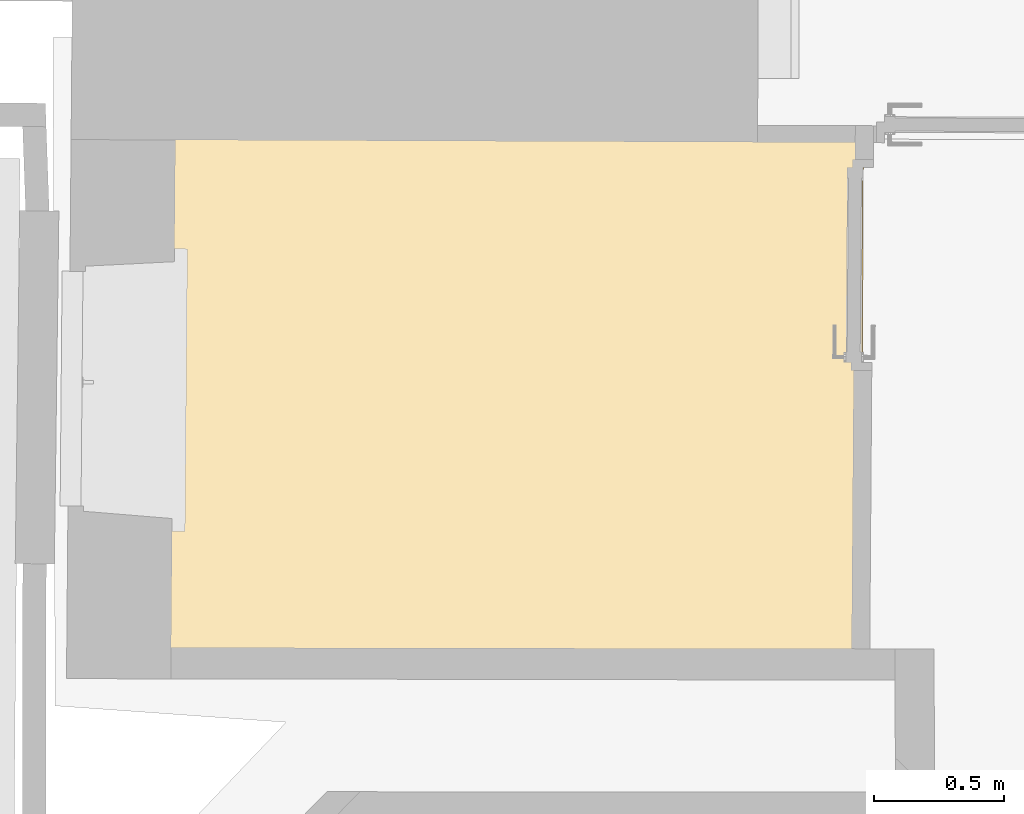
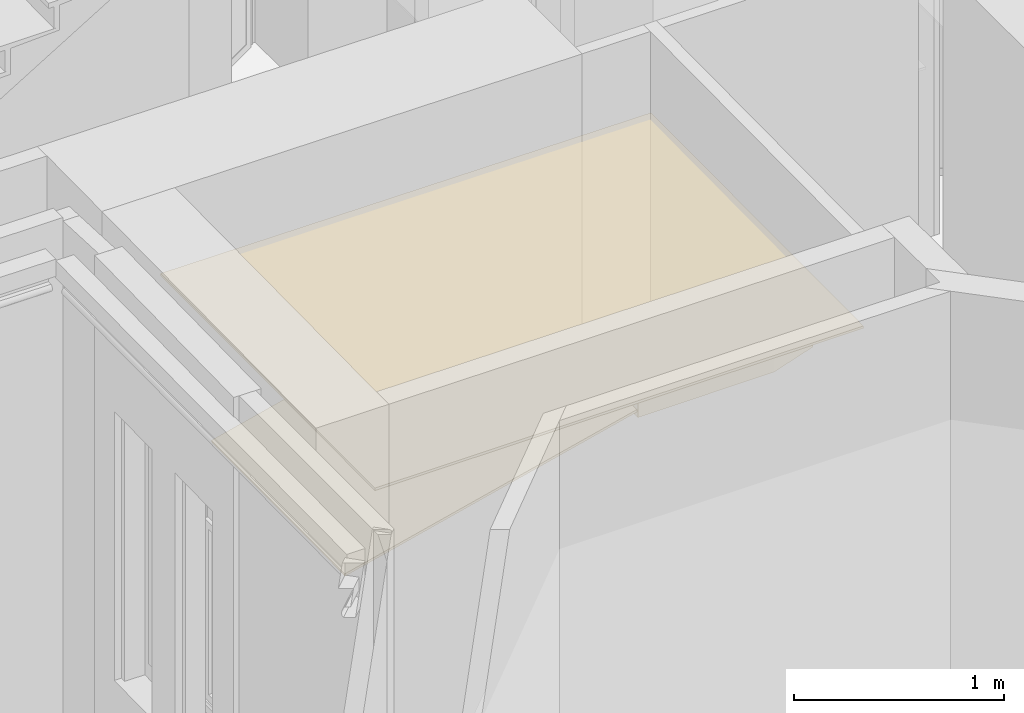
# One storey, part 55 of 66: 1 covering.
"""IFC2X3 building model written with IfcOpenShell, lengths in centimetres."""

from ifc_helpers import new_model, entity, si_unit, converted_unit, direction, frame, origin, origin_with_axes, place, context, subcontext, project, spatial, faceted_brep, material, element, save


model = new_model("IFC2X3")

# Units and contexts
model_context = context("Model", 3, precision=0.0001, world=origin(), true_north=direction((0.225632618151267, 0.974212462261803, 0.0)))
body_context = subcontext(model_context, "Body", "Model", "MODEL_VIEW")
ifc_project = project(units=[si_unit("LENGTHUNIT", "METRE", prefix="CENTI"), si_unit("AREAUNIT", "SQUARE_METRE", prefix="CENTI"), si_unit("VOLUMEUNIT", "CUBIC_METRE", prefix="CENTI"), converted_unit("PLANEANGLEUNIT", "DEGREE", entity("IfcRatioMeasure", 0.0174532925), si_unit("PLANEANGLEUNIT", "RADIAN"), dimensions=[0, 0, 0, 0, 0, 0, 0])], contexts=[model_context])

# Site, building, storey
site_placement = place(None, origin_with_axes())
site = spatial("IfcSite", under=ifc_project, at=site_placement, Name="Default Site", CompositionType="ELEMENT")
building_placement = place(site_placement, origin_with_axes())
building = spatial("IfcBuilding", under=site, at=building_placement, Name="Default Building", CompositionType="ELEMENT")
storey_placement = place(building_placement, frame((0.0, 0.0, 477.795358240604), z_axis=(0.0, 0.0, 1.0), x_axis=(1.0, 0.0, 0.0)))
storey = spatial("IfcBuildingStorey", under=building, at=storey_placement, Name="Niveau 1", CompositionType="ELEMENT", Elevation=477.795358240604)

# Covering
ifc_material = material(Name="Blanc")
covering_placement = place(storey_placement, frame((-1127.07074183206, -341.272129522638, 323.615015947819), z_axis=(0.0, 0.0, 1.0), x_axis=(1.0, 0.0, 0.0)))
element("IfcCovering", 1, at=covering_placement, inside=storey, material=ifc_material, Name="Faux-plafond 132692", PredefinedType="CEILING", context=body_context, shape_type="Brep", body=[
    faceted_brep([(4.15480631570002, -40.9782033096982, -72.1229882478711), (3.71955145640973, -168.537221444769, -72.2285209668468), (165.306689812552, -168.185363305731, -33.0497968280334), (165.028980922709, -40.6278948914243, -33.117130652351), (165.358858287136, -40.6278948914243, -34.4777436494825), (165.636578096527, -168.185363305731, -34.4104071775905), (4.04942882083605, -168.537221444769, -73.5891339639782), (4.48468368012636, -40.9782033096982, -73.4836012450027), (4.48468226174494, -40.9782033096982, -73.4835953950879), (4.04944520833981, -168.537221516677, -73.5891146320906), (3.71955089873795, -168.537221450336, -72.2285119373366), (4.15478795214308, -40.9782032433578, -72.122992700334), (4.04942530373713, -168.537221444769, -73.5891194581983), (165.636568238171, -168.185358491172, -34.4103665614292), (165.306692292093, -168.185358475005, -33.0498070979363), (3.71954935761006, -168.537221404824, -72.2285123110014), (165.636568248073, -168.185363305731, -34.4103665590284), (165.358816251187, -40.6278949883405, -34.4777538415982), (165.028921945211, -40.6278950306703, -33.117151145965), (165.306684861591, -168.185363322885, -33.0498088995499), (4.48468226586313, -40.9782053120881, -73.4835953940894), (4.15480631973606, -40.9782052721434, -72.1229882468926), (165.028982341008, -40.6278948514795, -33.1171365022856)], [[[0, 1, 2, 3]], [[4, 5, 6, 7]], [[8, 9, 10, 11]], [[12, 13, 14, 15]], [[16, 17, 18, 19]], [[4, 20, 21, 22]]]),
    faceted_brep([(-0.700063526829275, -205.163178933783, 1.40000865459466), (267.696504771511, -204.849610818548, 1.40000865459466), (268.619756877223, -1.21778060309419, 1.40000865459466), (2.87888445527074e-05, -1.00266171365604e-05, 1.40000865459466), (2.87888445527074e-05, -1.00266171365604e-05, 1.47581102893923e-05), (268.619756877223, -1.21778060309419, 1.47581102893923e-05), (267.696504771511, -204.849610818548, 1.47581102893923e-05), (-0.700063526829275, -205.163178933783, 1.47581102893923e-05), (267.696504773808, -204.849612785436, 1.47581102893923e-05), (267.696504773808, -204.849612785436, 1.40000865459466), (268.619667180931, -1.21778019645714, 1.47581102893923e-05), (268.619667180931, -1.21778019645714, 1.40000865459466), (2.88508157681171e-05, 3.64303829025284e-06, 1.47581102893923e-05), (2.88508157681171e-05, 3.64303829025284e-06, 1.40000865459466), (-0.699993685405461, -205.163179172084, 1.47581102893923e-05), (-0.699993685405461, -205.163179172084, 1.40000865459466)], [[[0, 1, 2, 3]], [[4, 5, 6, 7]], [[7, 8, 9, 0]], [[6, 10, 11, 1]], [[5, 12, 13, 2]], [[4, 14, 15, 3]]]),
    faceted_brep([(265.00514048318, -42.3224787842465, -35.7103677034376), (240.15915888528, -41.4043049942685, -35.7103677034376), (165.358858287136, -40.6278948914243, -35.7103677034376), (165.636568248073, -168.185363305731, -35.7103677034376), (239.176492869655, -167.817149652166, -35.7103677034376), (264.647798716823, -159.311852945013, -35.7103677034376), (264.647798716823, -159.311852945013, -37.1103615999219), (239.176492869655, -167.817149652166, -37.1103615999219), (165.636568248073, -168.185363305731, -37.1103615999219), (165.358858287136, -40.6278948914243, -37.1103615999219), (240.15915888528, -41.4043049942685, -37.1103615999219), (265.00514048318, -42.3224787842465, -37.1103615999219), (240.159159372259, -41.40429181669, -37.1103615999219), (240.159159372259, -41.40429181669, -35.7103677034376), (165.358858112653, -40.6279117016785, -37.1103615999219), (165.358858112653, -40.6279117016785, -35.7103677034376), (165.636620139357, -168.185363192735, -37.1103615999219), (165.636620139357, -168.185363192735, -35.7103677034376), (239.176492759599, -167.817127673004, -37.1103615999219), (239.176492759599, -167.817127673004, -35.7103677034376), (264.647807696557, -159.311879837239, -37.1103615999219), (264.647807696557, -159.311879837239, -35.7103677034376), (265.005144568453, -42.3224787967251, -37.1103615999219), (265.005144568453, -42.3224787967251, -35.7103677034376)], [[[0, 1, 2, 3, 4, 5]], [[6, 7, 8, 9, 10, 11]], [[11, 12, 13, 0]], [[10, 14, 15, 1]], [[9, 16, 17, 2]], [[8, 18, 19, 3]], [[7, 20, 21, 4]], [[6, 22, 23, 5]]]),
    faceted_brep([(240.18881815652, -40.154538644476, -37.1103615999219), (266.258840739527, -41.1179642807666, -37.1103566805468), (265.00514048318, -42.3224787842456, -37.1103566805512), (240.15915888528, -41.4043049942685, -37.1103613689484), (266.258840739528, -41.1179642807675, -37.1103615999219), (266.258840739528, -41.1179642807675, -1.41037418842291), (265.005152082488, -42.322490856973, -1.41037418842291), (265.005152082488, -42.322490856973, -37.1103615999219), (240.188818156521, -40.154538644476, -1.41037910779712), (240.159158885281, -41.4043049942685, -1.4103791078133), (265.005140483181, -42.3224787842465, -1.41037441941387), (240.18881815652, -40.154538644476, -1.41037418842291), (240.159244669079, -41.4043070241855, -37.1103615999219), (240.159244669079, -41.4043070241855, -1.41037418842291), (240.15915888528, -41.4043049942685, -37.1103615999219), (265.005139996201, -42.322491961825, -37.1103615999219), (265.005139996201, -42.322491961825, -1.41037418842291), (240.15915888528, -41.4043049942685, -1.41037418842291), (266.258840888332, -41.1179602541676, -1.41037418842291), (266.258840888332, -41.1179602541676, -37.1103615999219), (164.106111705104, -39.3648247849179, -37.1103615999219), (240.188818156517, -40.154538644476, -37.1103763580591), (240.159158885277, -41.4043049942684, -37.1103763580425), (165.358858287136, -40.6278948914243, -37.1103618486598), (164.106111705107, -39.3648247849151, -1.41035943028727), (165.358858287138, -40.6278948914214, -1.410359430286), (240.15915888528, -41.4043049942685, -1.41037393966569), (164.106111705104, -39.3648247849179, -1.41037418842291), (165.358861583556, -40.6278916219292, -37.1103615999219), (165.358861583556, -40.6278916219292, -1.41037418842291), (165.358858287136, -40.6278948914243, -37.1103615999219), (240.159159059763, -41.4042881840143, -37.1103615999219), (240.159159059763, -41.4042881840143, -1.41037418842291), (165.358858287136, -40.6278948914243, -1.41037418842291), (240.18881825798, -40.1545288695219, -1.41037418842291), (240.18881825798, -40.1545288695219, -37.1103615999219), (164.389352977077, -169.441638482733, -37.1103615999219), (164.106111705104, -39.3648247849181, -37.1103566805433), (165.358858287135, -40.6278948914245, -37.1103566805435), (165.636568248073, -168.185363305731, -37.1103615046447), (164.389352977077, -169.441638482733, -1.41037910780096), (165.636568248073, -168.185363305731, -1.41037910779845), (165.358858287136, -40.6278948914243, -1.41037428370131), (164.389352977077, -169.441638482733, -1.41037418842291), (165.636601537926, -168.185396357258, -37.1103615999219), (165.636601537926, -168.185396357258, -1.41037418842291), (165.636568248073, -168.185363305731, -37.1103615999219), (165.358806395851, -40.6278950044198, -37.1103615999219), (165.358806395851, -40.6278950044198, -1.41037418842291), (165.636568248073, -168.185363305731, -1.41037418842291), (164.106105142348, -39.3648247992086, -1.41037418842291), (164.106105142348, -39.3648247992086, -37.1103615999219), (239.382677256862, -169.066129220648, -37.1103615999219), (239.176492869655, -167.817149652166, -37.1103615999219), (239.382677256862, -169.066129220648, -1.41037418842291), (239.176492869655, -167.817149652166, -1.41037418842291), (239.176450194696, -167.817156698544, -37.1103615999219), (239.176450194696, -167.817156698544, -1.41037418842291), (165.636568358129, -168.185385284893, -37.1103615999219), (165.636568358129, -168.185385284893, -1.41037418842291), (164.38935299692, -169.441642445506, -1.41037418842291), (164.38935299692, -169.441642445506, -37.1103615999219), (265.895013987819, -160.213218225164, -37.1103615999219), (239.382677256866, -169.066129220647, -37.1103714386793), (239.176492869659, -167.817149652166, -37.1103714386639), (264.647798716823, -159.311852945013, -37.110361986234), (265.895013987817, -160.213218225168, -1.41036434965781), (264.647798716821, -159.311852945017, -1.41036434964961), (239.176492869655, -167.817149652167, -1.41037380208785), (265.895013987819, -160.213218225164, -1.41037418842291), (264.647787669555, -159.311868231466, -37.1103615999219), (264.647787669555, -159.311868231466, -1.41037418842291), (264.647798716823, -159.311852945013, -37.1103615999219), (239.176483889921, -167.81712275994, -37.1103615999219), (239.176483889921, -167.81712275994, -1.41037418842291), (264.647798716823, -159.311852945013, -1.41037418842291), (239.382668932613, -169.066104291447, -1.41037418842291), (239.382668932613, -169.066104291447, -37.1103615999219), (265.895013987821, -160.213218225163, -37.1103468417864), (264.647798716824, -159.311852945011, -37.1103468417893), (265.005140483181, -42.3224787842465, -37.1103613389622), (266.25884073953, -41.1179642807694, -1.41038894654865), (265.005140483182, -42.3224787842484, -1.41038894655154), (264.647798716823, -159.311852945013, -1.41037444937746), (265.00514048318, -42.3224787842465, -37.1103615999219), (264.64779463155, -159.311852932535, -37.1103615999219), (264.64779463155, -159.311852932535, -1.41037418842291), (265.00514048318, -42.3224787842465, -1.41037418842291), (265.895062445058, -160.213218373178, -1.41037418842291), (265.895062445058, -160.213218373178, -37.1103615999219)], [[[0, 1, 2, 3]], [[4, 5, 6, 7]], [[5, 8, 9, 10]], [[11, 0, 12, 13]], [[14, 15, 16, 17]], [[11, 18, 19, 0]], [[20, 21, 22, 23]], [[0, 11, 13, 12]], [[11, 24, 25, 26]], [[27, 20, 28, 29]], [[30, 31, 32, 33]], [[27, 34, 35, 20]], [[36, 37, 38, 39]], [[20, 27, 29, 28]], [[27, 40, 41, 42]], [[43, 36, 44, 45]], [[46, 47, 48, 49]], [[43, 50, 51, 36]], [[52, 36, 46, 53]], [[36, 43, 45, 44]], [[43, 54, 55, 49]], [[54, 52, 56, 57]], [[53, 58, 59, 55]], [[54, 60, 61, 52]], [[62, 63, 64, 65]], [[52, 54, 57, 56]], [[54, 66, 67, 68]], [[69, 62, 70, 71]], [[72, 73, 74, 75]], [[69, 76, 77, 62]], [[4, 78, 79, 80]], [[62, 69, 71, 70]], [[69, 81, 82, 83]], [[5, 4, 7, 6]], [[84, 85, 86, 87]], [[5, 88, 89, 4]]]),
])

save(model, "model.ifc")
